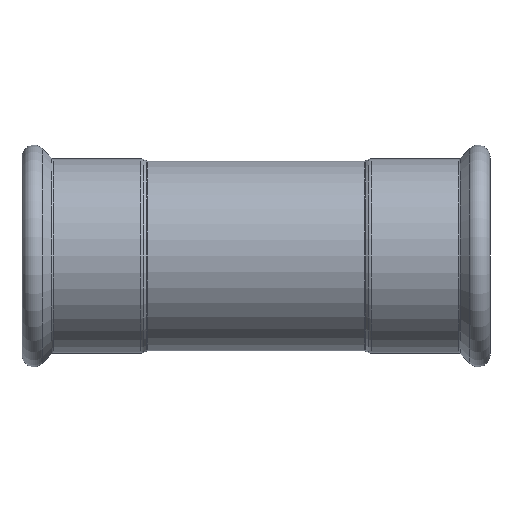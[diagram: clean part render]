
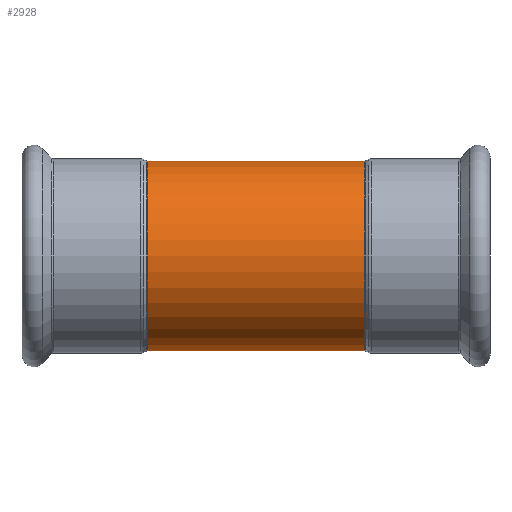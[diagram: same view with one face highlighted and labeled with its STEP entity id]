
A CAD part, front view. The second image highlights one B-rep face of the part: STEP entity #2928.
In plain terms, the highlighted cylindrical face has radius 28 mm (diameter 56 mm), a partial arc.
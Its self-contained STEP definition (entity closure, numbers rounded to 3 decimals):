
#141 = LINE ( 'NONE', #2061, #3267 ) ;
#189 = DIRECTION ( 'NONE',  ( -1., 0., 0. ) ) ;
#345 = EDGE_CURVE ( 'NONE', #566, #1931, #850, .T. ) ;
#434 = CARTESIAN_POINT ( 'NONE',  ( 27.146, 0., -28. ) ) ;
#480 = ORIENTED_EDGE ( 'NONE', *, *, #2564, .T. ) ;
#566 = VERTEX_POINT ( 'NONE', #3897 ) ;
#571 = VECTOR ( 'NONE', #4045, 1000. ) ;
#638 = ORIENTED_EDGE ( 'NONE', *, *, #345, .T. ) ;
#742 = AXIS2_PLACEMENT_3D ( 'NONE', #2765, #2424, #2368 ) ;
#761 = ORIENTED_EDGE ( 'NONE', *, *, #2096, .F. ) ;
#775 = DIRECTION ( 'NONE',  ( -1., 0., 0. ) ) ;
#850 = CIRCLE ( 'NONE', #742, 28. ) ;
#913 = CARTESIAN_POINT ( 'NONE',  ( 27.146, 0., 0. ) ) ;
#1267 = CYLINDRICAL_SURFACE ( 'NONE', #3917, 28. ) ;
#1496 = DIRECTION ( 'NONE',  ( 0., 0., 1. ) ) ;
#1681 = CARTESIAN_POINT ( 'NONE',  ( -32.06, 0., -28. ) ) ;
#1781 = ORIENTED_EDGE ( 'NONE', *, *, #3067, .F. ) ;
#1808 = CARTESIAN_POINT ( 'NONE',  ( -32.06, 0., 0. ) ) ;
#1931 = VERTEX_POINT ( 'NONE', #3329 ) ;
#2061 = CARTESIAN_POINT ( 'NONE',  ( 27.146, 0., 28. ) ) ;
#2096 = EDGE_CURVE ( 'NONE', #566, #3134, #2289, .T. ) ;
#2289 = LINE ( 'NONE', #434, #571 ) ;
#2368 = DIRECTION ( 'NONE',  ( 0., 0., 1. ) ) ;
#2424 = DIRECTION ( 'NONE',  ( -1., 0., 0. ) ) ;
#2495 = DIRECTION ( 'NONE',  ( 0., 0., 1. ) ) ;
#2564 = EDGE_CURVE ( 'NONE', #1931, #3583, #141, .T. ) ;
#2577 = AXIS2_PLACEMENT_3D ( 'NONE', #1808, #189, #1496 ) ;
#2765 = CARTESIAN_POINT ( 'NONE',  ( 32.06, 0., 0. ) ) ;
#2800 = CIRCLE ( 'NONE', #2577, 28. ) ;
#2928 = ADVANCED_FACE ( 'NONE', ( #4225 ), #1267, .T. ) ;
#3067 = EDGE_CURVE ( 'NONE', #3134, #3583, #2800, .T. ) ;
#3134 = VERTEX_POINT ( 'NONE', #1681 ) ;
#3145 = DIRECTION ( 'NONE',  ( -1., 0., 0. ) ) ;
#3267 = VECTOR ( 'NONE', #775, 1000. ) ;
#3278 = EDGE_LOOP ( 'NONE', ( #761, #638, #480, #1781 ) ) ;
#3329 = CARTESIAN_POINT ( 'NONE',  ( 32.06, 0., 28. ) ) ;
#3398 = CARTESIAN_POINT ( 'NONE',  ( -32.06, 0., 28. ) ) ;
#3583 = VERTEX_POINT ( 'NONE', #3398 ) ;
#3897 = CARTESIAN_POINT ( 'NONE',  ( 32.06, 0., -28. ) ) ;
#3917 = AXIS2_PLACEMENT_3D ( 'NONE', #913, #3145, #2495 ) ;
#4045 = DIRECTION ( 'NONE',  ( -1., 0., 0. ) ) ;
#4225 = FACE_OUTER_BOUND ( 'NONE', #3278, .T. ) ;
